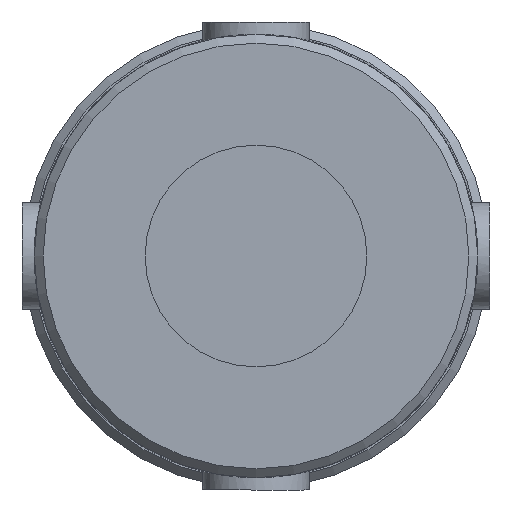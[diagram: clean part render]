
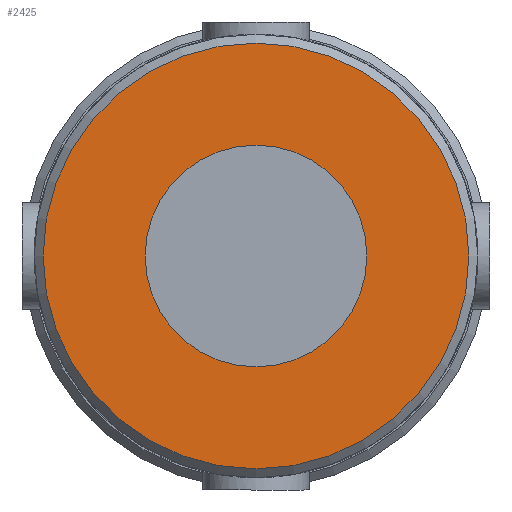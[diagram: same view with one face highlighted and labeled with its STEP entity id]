
A CAD part, left-side view. The second image highlights one B-rep face of the part: STEP entity #2425.
In plain terms, the highlighted planar face has unit normal (-1, 0, 0) as drawn and (0, -1, 0) by its records, which use the part's own axes.
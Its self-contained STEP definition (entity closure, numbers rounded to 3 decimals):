
#169=FACE_BOUND('',#568,.T.);
#255=PLANE('',#2677);
#387=FACE_OUTER_BOUND('',#567,.T.);
#567=EDGE_LOOP('',(#2162));
#568=EDGE_LOOP('',(#2163));
#981=CIRCLE('',#2672,12.5);
#983=CIRCLE('',#2675,24.);
#1200=VERTEX_POINT('',#4526);
#1202=VERTEX_POINT('',#4531);
#1524=EDGE_CURVE('',#1200,#1200,#981,.T.);
#1526=EDGE_CURVE('',#1202,#1202,#983,.T.);
#2162=ORIENTED_EDGE('',*,*,#1526,.F.);
#2163=ORIENTED_EDGE('',*,*,#1524,.T.);
#2425=ADVANCED_FACE('',(#387,#169),#255,.F.);
#2672=AXIS2_PLACEMENT_3D('',#4527,#3295,#3296);
#2675=AXIS2_PLACEMENT_3D('',#4532,#3301,#3302);
#2677=AXIS2_PLACEMENT_3D('',#4732,#3309,#3310);
#3295=DIRECTION('center_axis',(0.,1.,0.));
#3296=DIRECTION('ref_axis',(-1.,0.,0.));
#3301=DIRECTION('center_axis',(0.,1.,0.));
#3302=DIRECTION('ref_axis',(1.,0.,0.));
#3309=DIRECTION('center_axis',(0.,1.,0.));
#3310=DIRECTION('ref_axis',(0.,0.,1.));
#4526=CARTESIAN_POINT('',(12.5,-66.5,0.));
#4527=CARTESIAN_POINT('Origin',(0.,-66.5,0.));
#4531=CARTESIAN_POINT('',(-24.,-66.5,0.));
#4532=CARTESIAN_POINT('Origin',(0.,-66.5,0.));
#4732=CARTESIAN_POINT('Origin',(0.,-66.5,0.));
